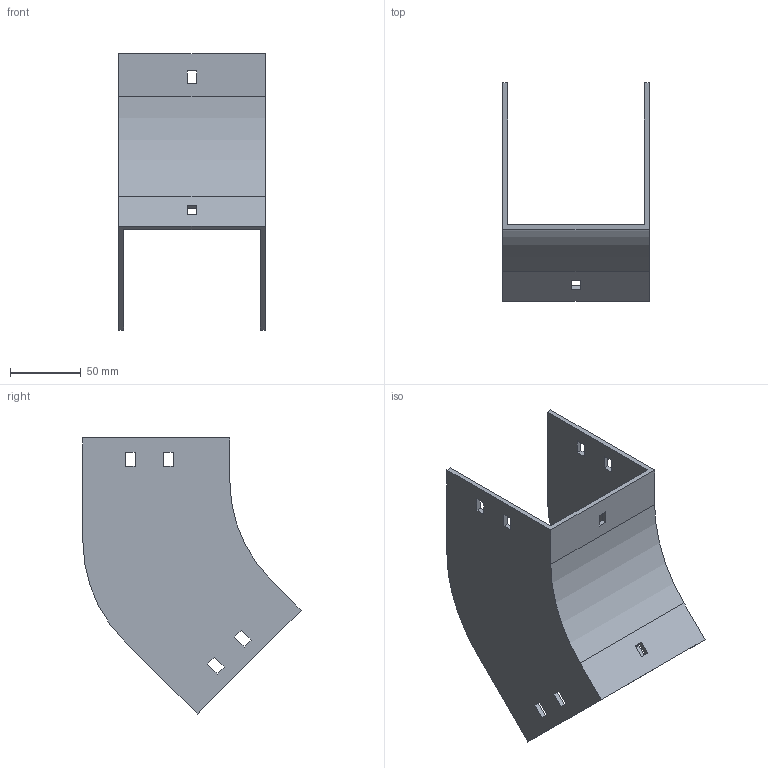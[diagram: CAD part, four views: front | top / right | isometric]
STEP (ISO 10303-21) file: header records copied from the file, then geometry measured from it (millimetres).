
FILE_DESCRIPTION (( 'STEP AP214' ), '1' );
FILE_NAME ('34F1D100.step', '2025-02-21T12:50:14', ( '' ), ( '' ), 'SwSTEP 2.0', 'SolidWorks 2023', '' );
FILE_SCHEMA (( 'AUTOMOTIVE_DESIGN' ));
Length unit declared in the file: millimetre
Products named in the file (1): 34F1D100
Bounding box: 104 x 154.5 x 195.46 mm (x, y, z)
Volume: 180481.8 mm3; surface area: 107999.7 mm2
Topology: 1 solids, 1 shells, 58 faces, 168 edges, 112 vertices
Faces by surface type: plane 54, cylinder 4
Entity records: 1943 total; most frequent: CARTESIAN_POINT 339, ORIENTED_EDGE 336, DIRECTION 294, EDGE_CURVE 168, VECTOR 160, LINE 160, VERTEX_POINT 112, EDGE_LOOP 78
